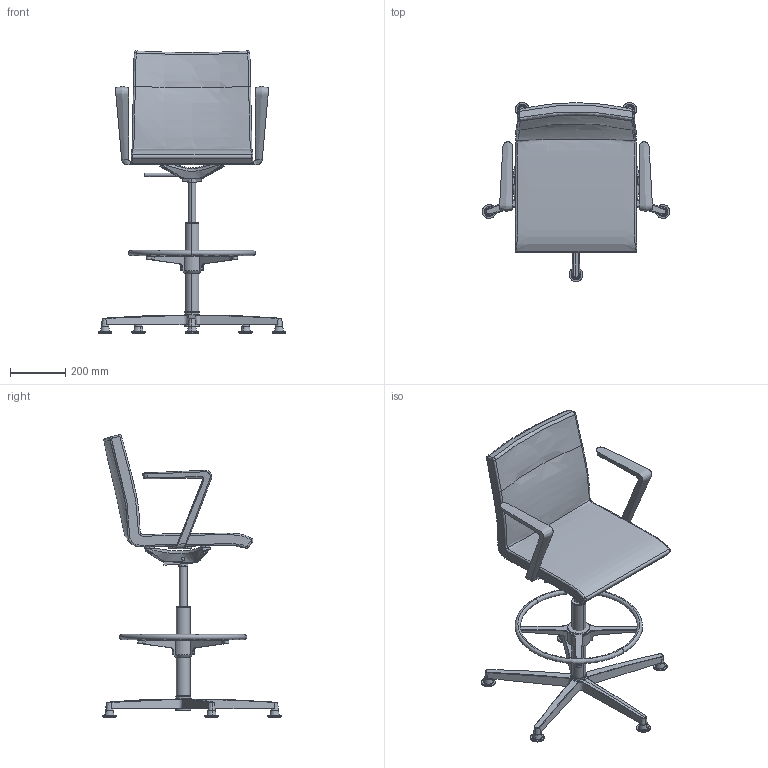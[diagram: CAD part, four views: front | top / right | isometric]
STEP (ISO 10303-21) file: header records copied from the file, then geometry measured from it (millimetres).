
FILE_DESCRIPTION(/* description */ (''),/* implementation_level */ '2;1');
FILE_NAME(/* name */ 'SEANCE~4',/* time_stamp */ '2017-01-03T13:25:20+01:00',/* author */ (''),/* organization */ (''),/* preprocessor_version */ 'ST-DEVELOPER v15',/* originating_system */ '',/* authorisation */ '');
FILE_SCHEMA (('CONFIG_CONTROL_DESIGN'));
Length unit declared in the file: millimetre
Products named in the file (1): Document
Bounding box: 677.66 x 646.97 x 1019.07 mm (x, y, z)
Volume: 18063096.1 mm3; surface area: 1490454.3 mm2
Topology: 10 solids, 28 shells, 338 faces, 820 edges, 511 vertices
Faces by surface type: bspline 267, plane 71
Entity records: 20534 total; most frequent: CARTESIAN_POINT 15878, ORIENTED_EDGE 1537, EDGE_CURVE 817, VERTEX_POINT 505, B_SPLINE_CURVE_WITH_KNOTS 345, EDGE_LOOP 343, ADVANCED_FACE 338, FACE_OUTER_BOUND 338
